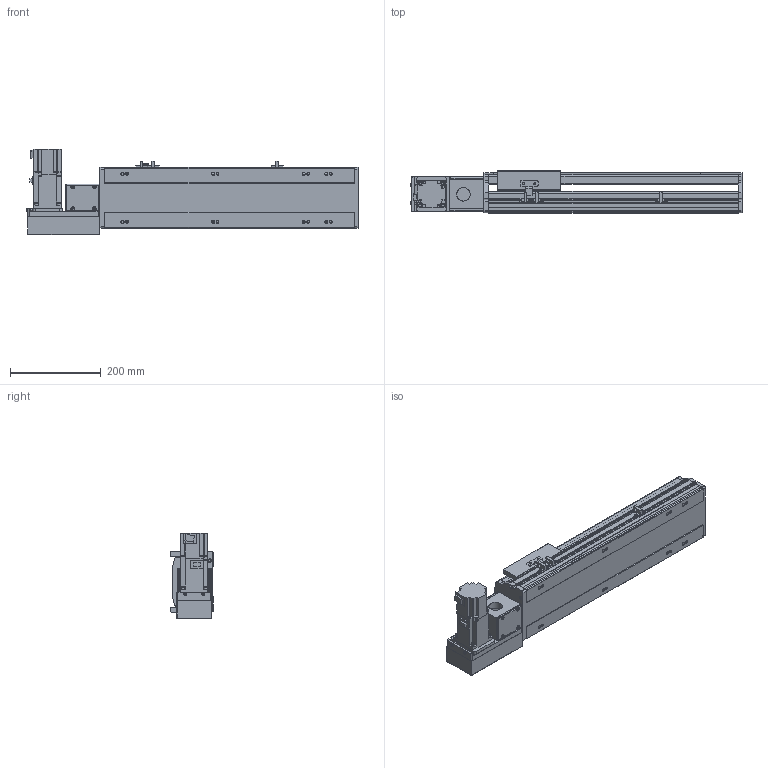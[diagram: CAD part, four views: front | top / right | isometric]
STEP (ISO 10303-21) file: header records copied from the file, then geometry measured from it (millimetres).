
FILE_DESCRIPTION( ( 'STEP AP214' ), '1' );
FILE_NAME( 'x:/temp/worker_6/temp/exporttempdir_5396_3_W8CrX/format_0/PBS140S-P40-S300-L-T40-C1-N(0).stp', '2022-06-09T00:00:26', ( 'License CC BY-ND 4.0' ), ( 'CADENAS' ), ' ', 'PARTsolutions', ' ' );
FILE_SCHEMA( ( 'AUTOMOTIVE_DESIGN { 1 0 10303 214 1 1 1 1 }' ) );
Length unit declared in the file: millimetre
Products named in the file (7): PBS140S-P40-S300-L-T40-C1-N(0); _PBS140S-S300()_body; _PBS140ST-L_motors; _T40-p1; _PBS140S_sliser; _PBS140S_plant; _PBS140S_sensor
Assembly tree (8 placements, depth 2):
  PBS140S-P40-S300-L-T40-C1-N(0)
    _PBS140S-S300()_body
    _PBS140ST-L_motors
    _T40-p1
    _PBS140S_sliser
    _PBS140S_plant
    _PBS140S_sensor  x3
Bounding box: 733 x 93 x 189.7 mm (x, y, z)
Volume: 3850337.1 mm3; surface area: 698104.9 mm2
Topology: 8 solids, 8 shells, 1035 faces, 2751 edges, 1801 vertices
Faces by surface type: plane 678, cylinder 313, cone 34, sphere 8, torus 2
Full cylindrical faces by diameter (mm): 3.242 x4, 4 x2, 4.134 x4, 4.4 x8, 4.5 x2, 4.8 x4, 4.917 x16, 5.5 x7, 6 x2, 7 x10, 7.5 x8, 8 x12, 8.5 x4, 10.5 x8, 14 x1, 30 x2, 50 x2
Entity records: 37768 total; most frequent: CARTESIAN_POINT 5734, DIRECTION 5068, ORIENTED_EDGE 4822, EDGE_CURVE 2411, AXIS2_PLACEMENT_3D 1739, VERTEX_POINT 1657, LINE 1590, VECTOR 1590
